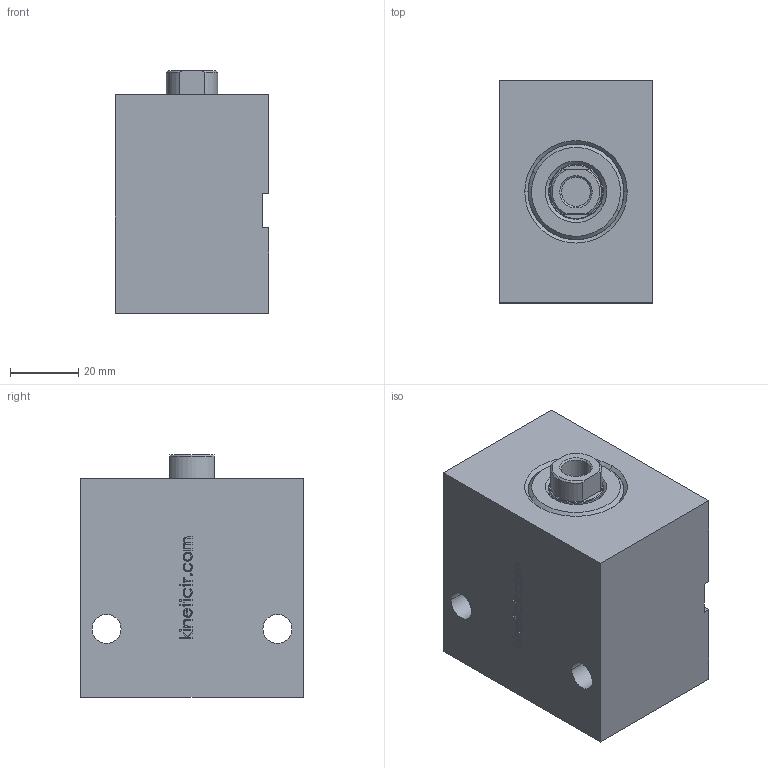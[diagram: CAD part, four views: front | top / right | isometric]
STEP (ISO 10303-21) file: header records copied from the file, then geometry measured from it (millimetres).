
FILE_DESCRIPTION (( 'STEP AP214' ), '1' );
FILE_NAME ('KBZ_11_25_16_20.STEP', '2019-09-11T19:11:59', ( '' ), ( '' ), 'SwSTEP 2.0', 'SolidWorks 2018', '' );
FILE_SCHEMA (( 'AUTOMOTIVE_DESIGN' ));
Length unit declared in the file: millimetre
Products named in the file (4): KBZ_11_25_16_20; KAPAK; GOVDE; MIL
Assembly tree (3 placements, depth 2):
  KBZ_11_25_16_20
    GOVDE
    KAPAK
    MIL
Bounding box: 45 x 65 x 71 mm (x, y, z)
Volume: 181694.3 mm3; surface area: 27044.3 mm2
Topology: 3 solids, 3 shells, 232 faces, 586 edges, 386 vertices
Faces by surface type: plane 117, bspline 69, cylinder 29, cone 17
Entity records: 10254 total; most frequent: CARTESIAN_POINT 4915, ORIENTED_EDGE 1172, DIRECTION 858, EDGE_CURVE 586, VERTEX_POINT 386, VECTOR 368, LINE 368, EDGE_LOOP 264
